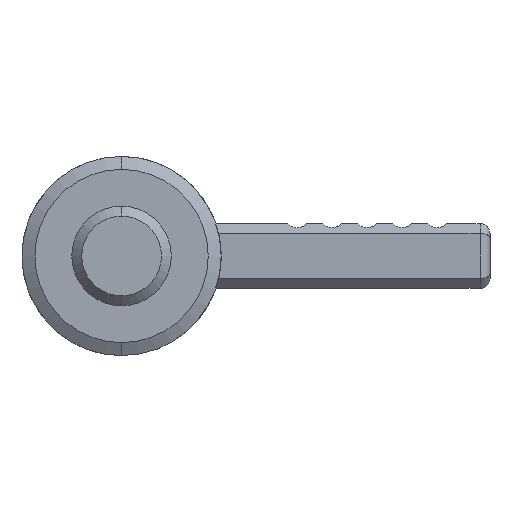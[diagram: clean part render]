
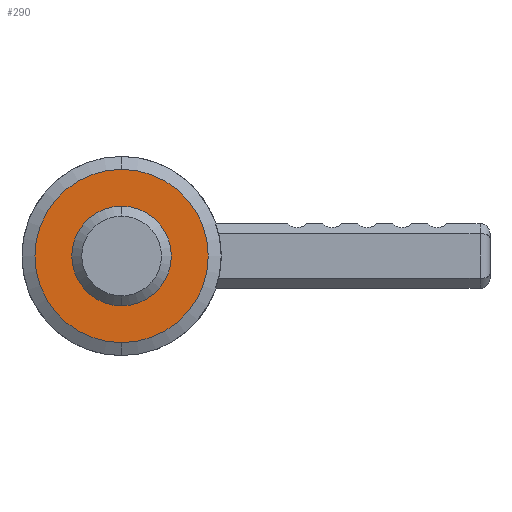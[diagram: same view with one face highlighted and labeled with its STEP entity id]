
A CAD part, front view. The second image highlights one B-rep face of the part: STEP entity #290.
In plain terms, the highlighted planar face has unit normal (0, -1, 0).
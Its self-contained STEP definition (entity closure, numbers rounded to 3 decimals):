
#277 = EDGE_CURVE ( 'NONE', #4598, #4620, #2962, .T. ) ;
#278 = EDGE_LOOP ( 'NONE', ( #280, #281 ) ) ;
#279 = ORIENTED_EDGE ( 'NONE', *, *, #4625, .T. ) ;
#280 = ORIENTED_EDGE ( 'NONE', *, *, #282, .F. ) ;
#281 = ORIENTED_EDGE ( 'NONE', *, *, #4792, .F. ) ;
#282 = EDGE_CURVE ( 'NONE', #4632, #4658, #2957, .T. ) ;
#290 = ADVANCED_FACE ( 'NONE', ( #2939, #2938 ), #2997, .F. ) ;
#291 = EDGE_LOOP ( 'NONE', ( #292, #279 ) ) ;
#292 = ORIENTED_EDGE ( 'NONE', *, *, #277, .T. ) ;
#1022 = CARTESIAN_POINT ( 'NONE',  ( 0., 0., 8.701 ) ) ;
#1050 = CARTESIAN_POINT ( 'NONE',  ( 0., 0., 0. ) ) ;
#1051 = AXIS2_PLACEMENT_3D ( 'NONE', #1050, #1106, #1105 ) ;
#1052 = CIRCLE ( 'NONE', #1051, 8.701 ) ;
#1053 = CARTESIAN_POINT ( 'NONE',  ( 0., 0., -8.701 ) ) ;
#1093 = CARTESIAN_POINT ( 'NONE',  ( 0., 0., -5. ) ) ;
#1105 = DIRECTION ( 'NONE',  ( 0., 0., -1. ) ) ;
#1106 = DIRECTION ( 'NONE',  ( 0., -1., 0. ) ) ;
#1144 = CARTESIAN_POINT ( 'NONE',  ( 0., 0., 5. ) ) ;
#1398 = DIRECTION ( 'NONE',  ( 0., 0., -1. ) ) ;
#1399 = DIRECTION ( 'NONE',  ( 0., -1., 0. ) ) ;
#1400 = AXIS2_PLACEMENT_3D ( 'NONE', #1404, #1399, #1398 ) ;
#1401 = CIRCLE ( 'NONE', #1400, 5. ) ;
#1404 = CARTESIAN_POINT ( 'NONE',  ( 0., 0., 0. ) ) ;
#2938 = FACE_BOUND ( 'NONE', #278, .T. ) ;
#2939 = FACE_OUTER_BOUND ( 'NONE', #291, .T. ) ;
#2953 = DIRECTION ( 'NONE',  ( 0., 0., -1. ) ) ;
#2954 = DIRECTION ( 'NONE',  ( 0., -1., 0. ) ) ;
#2955 = CARTESIAN_POINT ( 'NONE',  ( 0., 0., 0. ) ) ;
#2956 = AXIS2_PLACEMENT_3D ( 'NONE', #2955, #2954, #2953 ) ;
#2957 = CIRCLE ( 'NONE', #2956, 5. ) ;
#2958 = DIRECTION ( 'NONE',  ( 0., 0., -1. ) ) ;
#2959 = DIRECTION ( 'NONE',  ( 0., -1., 0. ) ) ;
#2960 = CARTESIAN_POINT ( 'NONE',  ( 0., 0., 0. ) ) ;
#2961 = AXIS2_PLACEMENT_3D ( 'NONE', #2960, #2959, #2958 ) ;
#2962 = CIRCLE ( 'NONE', #2961, 8.701 ) ;
#2982 = DIRECTION ( 'NONE',  ( 0., 0., 1. ) ) ;
#2983 = DIRECTION ( 'NONE',  ( 0., 1., 0. ) ) ;
#2995 = CARTESIAN_POINT ( 'NONE',  ( -5., 0., 0. ) ) ;
#2996 = AXIS2_PLACEMENT_3D ( 'NONE', #2995, #2983, #2982 ) ;
#2997 = PLANE ( 'NONE',  #2996 ) ;
#4598 = VERTEX_POINT ( 'NONE', #1022 ) ;
#4620 = VERTEX_POINT ( 'NONE', #1053 ) ;
#4625 = EDGE_CURVE ( 'NONE', #4620, #4598, #1052, .T. ) ;
#4632 = VERTEX_POINT ( 'NONE', #1093 ) ;
#4658 = VERTEX_POINT ( 'NONE', #1144 ) ;
#4792 = EDGE_CURVE ( 'NONE', #4658, #4632, #1401, .T. ) ;
